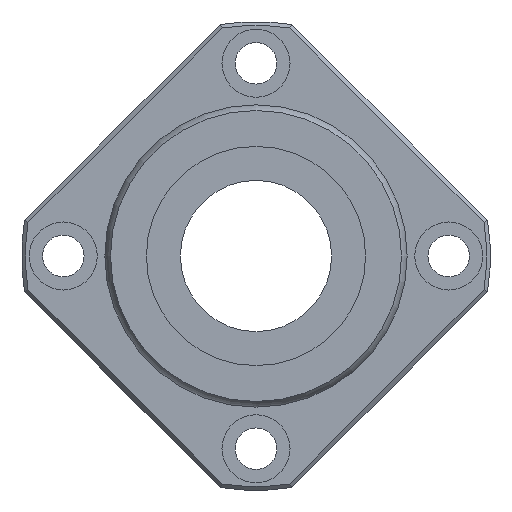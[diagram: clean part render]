
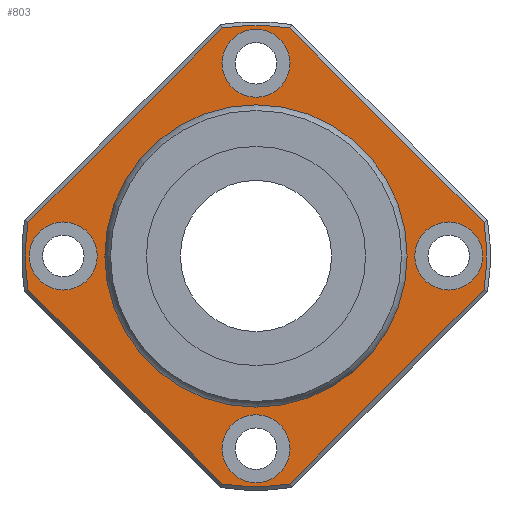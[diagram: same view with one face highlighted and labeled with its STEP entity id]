
A CAD part, left-side view. The second image highlights one B-rep face of the part: STEP entity #803.
In plain terms, the highlighted planar face has unit normal (-1, 0, 0).
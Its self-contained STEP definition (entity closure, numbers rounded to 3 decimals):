
#498=CARTESIAN_POINT('',(60.5,-4.479,-30.169));
#499=VERTEX_POINT('',#498);
#507=CARTESIAN_POINT('',(60.5,4.479,-30.169));
#508=VERTEX_POINT('',#507);
#509=CARTESIAN_POINT('',(60.5,0.0,0.0));
#510=DIRECTION('',(1.0,0.0,0.0));
#511=DIRECTION('',(0.0,0.0,-1.0));
#512=AXIS2_PLACEMENT_3D('',#509,#510,#511);
#513=CIRCLE('',#512,30.5);
#514=EDGE_CURVE('',#499,#508,#513,.T.);
#540=CARTESIAN_POINT('',(60.5,30.169,-4.479));
#541=VERTEX_POINT('',#540);
#542=CARTESIAN_POINT('',(60.5,4.479,-30.169));
#543=DIRECTION('',(0.0,0.707,0.707));
#544=VECTOR('',#543,36.332);
#545=LINE('',#542,#544);
#546=EDGE_CURVE('',#508,#541,#545,.T.);
#573=CARTESIAN_POINT('',(60.5,30.169,4.479));
#574=VERTEX_POINT('',#573);
#575=CARTESIAN_POINT('',(60.5,0.0,0.0));
#576=DIRECTION('',(1.0,0.0,0.0));
#577=DIRECTION('',(0.0,0.0,1.0));
#578=AXIS2_PLACEMENT_3D('',#575,#576,#577);
#579=CIRCLE('',#578,30.5);
#580=EDGE_CURVE('',#541,#574,#579,.T.);
#604=CARTESIAN_POINT('',(60.5,4.479,30.169));
#605=VERTEX_POINT('',#604);
#606=CARTESIAN_POINT('',(60.5,30.169,4.479));
#607=DIRECTION('',(0.0,-0.707,0.707));
#608=VECTOR('',#607,36.332);
#609=LINE('',#606,#608);
#610=EDGE_CURVE('',#574,#605,#609,.T.);
#629=CARTESIAN_POINT('',(60.5,-4.479,30.169));
#630=VERTEX_POINT('',#629);
#631=CARTESIAN_POINT('',(60.5,0.0,0.0));
#632=DIRECTION('',(1.0,0.0,0.0));
#633=DIRECTION('',(0.0,0.0,1.0));
#634=AXIS2_PLACEMENT_3D('',#631,#632,#633);
#635=CIRCLE('',#634,30.5);
#636=EDGE_CURVE('',#605,#630,#635,.T.);
#655=CARTESIAN_POINT('',(60.5,-30.169,4.479));
#656=VERTEX_POINT('',#655);
#657=CARTESIAN_POINT('',(60.5,-4.479,30.169));
#658=DIRECTION('',(0.0,-0.707,-0.707));
#659=VECTOR('',#658,36.332);
#660=LINE('',#657,#659);
#661=EDGE_CURVE('',#630,#656,#660,.T.);
#680=CARTESIAN_POINT('',(60.5,-30.169,-4.479));
#681=VERTEX_POINT('',#680);
#682=CARTESIAN_POINT('',(60.5,0.0,0.0));
#683=DIRECTION('',(1.0,0.0,0.0));
#684=DIRECTION('',(0.0,0.0,1.0));
#685=AXIS2_PLACEMENT_3D('',#682,#683,#684);
#686=CIRCLE('',#685,30.5);
#687=EDGE_CURVE('',#656,#681,#686,.T.);
#706=CARTESIAN_POINT('',(60.5,-30.169,-4.479));
#707=DIRECTION('',(0.0,0.707,-0.707));
#708=VECTOR('',#707,36.332);
#709=LINE('',#706,#708);
#710=EDGE_CURVE('',#681,#499,#709,.T.);
#733=CARTESIAN_POINT('',(60.5,0.0,25.282));
#734=DIRECTION('',(-1.0,0.0,0.0));
#735=DIRECTION('',(0.0,0.0,1.0));
#736=AXIS2_PLACEMENT_3D('',#733,#734,#735);
#737=PLANE('',#736);
#738=ORIENTED_EDGE('',*,*,#514,.F.);
#739=ORIENTED_EDGE('',*,*,#710,.F.);
#740=ORIENTED_EDGE('',*,*,#687,.F.);
#741=ORIENTED_EDGE('',*,*,#661,.F.);
#742=ORIENTED_EDGE('',*,*,#636,.F.);
#743=ORIENTED_EDGE('',*,*,#610,.F.);
#744=ORIENTED_EDGE('',*,*,#580,.F.);
#745=ORIENTED_EDGE('',*,*,#546,.F.);
#746=EDGE_LOOP('',(#738,#739,#740,#741,#742,#743,#744,#745));
#747=FACE_OUTER_BOUND('',#746,.T.);
#748=CARTESIAN_POINT('',(60.5,0.0,19.564));
#749=VERTEX_POINT('',#748);
#750=CARTESIAN_POINT('',(60.5,0.0,0.0));
#751=DIRECTION('',(-1.0,0.0,0.0));
#752=DIRECTION('',(0.0,0.0,1.0));
#753=AXIS2_PLACEMENT_3D('',#750,#751,#752);
#754=CIRCLE('',#753,19.564);
#755=EDGE_CURVE('',#749,#749,#754,.T.);
#756=ORIENTED_EDGE('',*,*,#755,.F.);
#757=EDGE_LOOP('',(#756));
#758=FACE_BOUND('',#757,.T.);
#759=CARTESIAN_POINT('',(60.5,-21.0,0.));
#760=VERTEX_POINT('',#759);
#761=CARTESIAN_POINT('',(60.5,-25.5,0.));
#762=DIRECTION('',(1.0,0.0,0.0));
#763=DIRECTION('',(0.0,1.0,0.0));
#764=AXIS2_PLACEMENT_3D('',#761,#762,#763);
#765=CIRCLE('',#764,4.5);
#766=EDGE_CURVE('',#760,#760,#765,.T.);
#767=ORIENTED_EDGE('',*,*,#766,.T.);
#768=EDGE_LOOP('',(#767));
#769=FACE_BOUND('',#768,.T.);
#770=CARTESIAN_POINT('',(60.5,30.,0.));
#771=VERTEX_POINT('',#770);
#772=CARTESIAN_POINT('',(60.5,25.5,0.));
#773=DIRECTION('',(1.0,0.0,0.0));
#774=DIRECTION('',(0.0,1.0,0.0));
#775=AXIS2_PLACEMENT_3D('',#772,#773,#774);
#776=CIRCLE('',#775,4.5);
#777=EDGE_CURVE('',#771,#771,#776,.T.);
#778=ORIENTED_EDGE('',*,*,#777,.T.);
#779=EDGE_LOOP('',(#778));
#780=FACE_BOUND('',#779,.T.);
#781=CARTESIAN_POINT('',(60.5,4.5,25.5));
#782=VERTEX_POINT('',#781);
#783=CARTESIAN_POINT('',(60.5,0.,25.5));
#784=DIRECTION('',(1.0,0.0,0.0));
#785=DIRECTION('',(0.0,1.0,0.0));
#786=AXIS2_PLACEMENT_3D('',#783,#784,#785);
#787=CIRCLE('',#786,4.5);
#788=EDGE_CURVE('',#782,#782,#787,.T.);
#789=ORIENTED_EDGE('',*,*,#788,.T.);
#790=EDGE_LOOP('',(#789));
#791=FACE_BOUND('',#790,.T.);
#792=CARTESIAN_POINT('',(60.5,4.5,-25.5));
#793=VERTEX_POINT('',#792);
#794=CARTESIAN_POINT('',(60.5,0.,-25.5));
#795=DIRECTION('',(1.0,0.0,0.0));
#796=DIRECTION('',(0.0,1.0,0.0));
#797=AXIS2_PLACEMENT_3D('',#794,#795,#796);
#798=CIRCLE('',#797,4.5);
#799=EDGE_CURVE('',#793,#793,#798,.T.);
#800=ORIENTED_EDGE('',*,*,#799,.T.);
#801=EDGE_LOOP('',(#800));
#802=FACE_BOUND('',#801,.T.);
#803=ADVANCED_FACE('',(#747,#758,#769,#780,#791,#802),#737,.T.);
